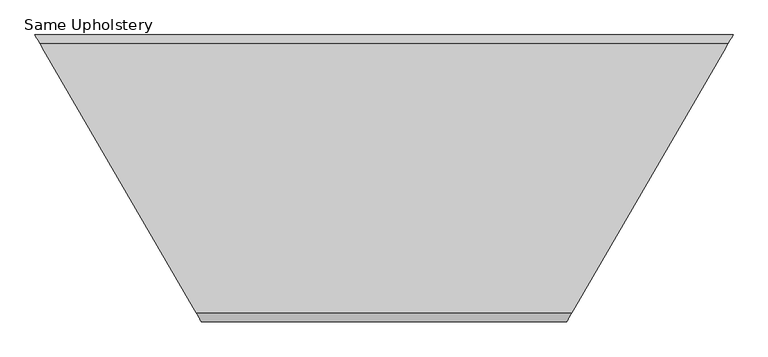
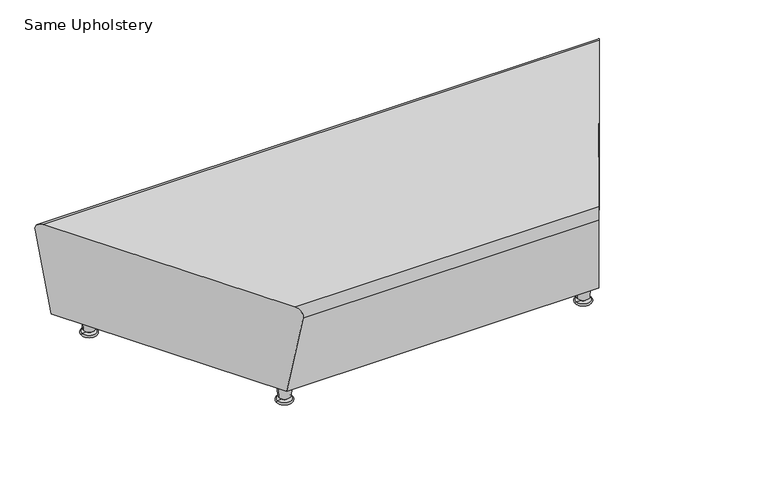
"""IFC4 building model written with IfcOpenShell, lengths in millimetres: furniture geometry, Steelcase - Media Scape - Lounge - Backless : Same Upholstery."""

from ifc_helpers import new_model, si_unit, point, frame, origin, place, context, project, spatial, polyline, circle_curve, ellipse_curve, trimmed, source, transform, mapped, element, save
from ifc_brep_helpers import plane_surface, cylinder_surface, revolved_surface, advanced_brep


def same_upholstery_e157f741(model_context):
    return source(origin(), model_context, "Body", "AdvancedBrep", [
        advanced_brep(
        [(-25.1032021, 40.4380475, 404.8558036), (-16.7839115, 26.1079457, 404.8558036), (1074.7116169, 26.1079457, 404.8558036), (1083.0309074, 40.4380475, 404.8558036), (1521.8658084, 796.3376974, 404.8558036), (1528.4184217, 807.6246715, 404.8558036), (-470.4907164, 807.6246715, 404.8558036), (-463.938103, 796.3376974, 404.8558036), (1513.6795651, 782.2367715, 74.638481), (1089.4504735, 51.4958456, 74.638481), (-31.5227682, 51.4958456, 74.638481), (-455.7518598, 782.2367715, 74.638481), (-485.3373553, 833.1982281, 374.5705234), (-1.9372726, 0.5343891, 374.5705234), (1059.8649779, 0.5343891, 374.5705234), (1543.2650607, 833.1982281, 374.5705234)],
        [
            (0, 1),
            (1, 2),
            (2, 3),
            (3, 4),
            (4, 5),
            (5, 6),
            (6, 7),
            (7, 0),
            (8, 9),
            (9, 10),
            (10, 11),
            (11, 8),
            (6, 12, ellipse_curve(frame((-470.4907164, 807.6246715, 378.9157267), z_axis=(-0.8648259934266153, -0.5020717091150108, 0.0), x_axis=(-0.5020717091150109, 0.8648259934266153, 0.0)), 29.994562, 25.9400769)),
            (12, 11),
            (10, 13),
            (13, 1, ellipse_curve(frame((-16.7839115, 26.1079457, 378.9157267), z_axis=(-0.8648259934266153, -0.5020717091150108, 0.0), x_axis=(-0.5020717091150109, 0.8648259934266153, 0.0)), 29.994562, 25.9400769)),
            (2, 14, ellipse_curve(frame((1074.7116169, 26.1079457, 378.9157267), z_axis=(0.8648259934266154, -0.5020717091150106, 0.0), x_axis=(-0.5020717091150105, -0.8648259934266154, 0.0)), 29.994562, 25.9400769)),
            (14, 9),
            (8, 15),
            (15, 5, ellipse_curve(frame((1528.4184217, 807.6246715, 378.9157267), z_axis=(0.8648259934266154, -0.5020717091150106, 0.0), x_axis=(-0.5020717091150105, -0.8648259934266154, 0.0)), 29.994562, 25.9400769)),
            (13, 14),
            (12, 15),
        ],
        [
            plane_surface(frame((-475.1687245, 833.9340475, 404.8558036), z_axis=(0.0, 0.0, 1.0), x_axis=(-1.0, 0.0, 0.0))),
            plane_surface(frame((-475.1687245, 833.9340475, 74.638481), z_axis=(0.0, 0.0, -1.0), x_axis=(1.0, 0.0, 0.0))),
            plane_surface(frame((-485.7645327, 833.9340475, 404.8558036), z_axis=(-0.8648259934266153, -0.5020717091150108, 0.0), x_axis=(0.0, 0.0, -1.0))),
            plane_surface(frame((1059.5547402, 0.0, 404.8558036), z_axis=(0.8648259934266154, -0.5020717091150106, 0.0), x_axis=(0.0, 0.0, -1.0))),
            cylinder_surface(frame((-516.2938309, 26.1079457, 378.9157267), z_axis=(-1.0, 0.0, 0.0), x_axis=(0.0, 1.0, 0.0)), 25.9400769),
            plane_surface(frame((1560.5939326, 51.4958456, 74.638481), z_axis=(0.0, -0.9858705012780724, -0.16750926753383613), x_axis=(-1.0, 0.0, 0.0))),
            plane_surface(frame((1560.5939326, 833.1982281, 374.5705234), z_axis=(0.0, 0.9858705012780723, -0.1675092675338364), x_axis=(-1.0, 0.0, 0.0))),
            cylinder_surface(frame((0.0, 807.6246715, 378.9157267), z_axis=(-1.0, 0.0, 0.0), x_axis=(0.0, 1.0, 0.0)), 25.9400769),
        ],
        [
            (0, [[1, 2, 3, 4, 5, 6, 7, 8]]),
            (1, [[9, 10, 11, 12]]),
            (2, [[-1, -8, -7, 13, 14, -11, 15, 16]]),
            (3, [[-3, 17, 18, -9, 19, 20, -5, -4]]),
            (4, [[21, -17, -2, -16]]),
            (5, [[-21, -15, -10, -18]]),
            (6, [[22, -19, -12, -14]]),
            (7, [[-22, -13, -6, -20]]),
        ],
    ),
        advanced_brep(
        [(1066.0808023, 106.7707016, 74.1561731), (1089.8677225, 106.7707016, 74.1561731), (1042.2938821, 106.7707016, 74.1561731), (1040.02716, 106.7707016, 0.0), (1092.1344446, 106.7707016, 0.0), (1066.0808023, 106.7707016, 0.0), (1040.02716, 106.7707016, 6.3788302), (1092.1344446, 106.7707016, 6.3788302), (1056.5558023, 106.7707016, 6.3788302), (1075.6058023, 106.7707016, 6.3788302), (1056.5558023, 106.7707016, 17.057519), (1075.6058023, 106.7707016, 17.057519), (1045.125686, 106.7707016, 17.057519), (1087.0359186, 106.7707016, 17.057519)],
        [
            (0, 1),
            (1, 2, circle_curve(frame((1066.0808023, 106.7707016, 74.1561731), z_axis=(0.0, 0.0, 1.0), x_axis=(1.0, 0.0, 0.0)), 23.7869202)),
            (2, 0),
            (2, 1, circle_curve(frame((1066.0808023, 106.7707016, 74.1561731), z_axis=(0.0, 0.0, 1.0), x_axis=(1.0, 0.0, 0.0)), 23.7869202)),
            (3, 4, circle_curve(frame((1066.0808023, 106.7707016, 0.0), z_axis=(0.0, 0.0, -1.0), x_axis=(1.0, 0.0, 0.0)), 26.0536423)),
            (4, 5),
            (5, 3),
            (4, 3, circle_curve(frame((1066.0808023, 106.7707016, 0.0), z_axis=(0.0, 0.0, -1.0), x_axis=(1.0, 0.0, 0.0)), 26.0536423)),
            (6, 7, circle_curve(frame((1066.0808023, 106.7707016, 6.3788302), z_axis=(0.0, 0.0, -1.0), x_axis=(1.0, 0.0, 0.0)), 26.0536423)),
            (7, 4, circle_curve(frame((1092.1344446, 106.7707016, 3.1894151), z_axis=(0.0, 1.0, 0.0), x_axis=(1.0, 0.0, 0.0)), 3.1894151)),
            (3, 6, circle_curve(frame((1040.02716, 106.7707016, 3.1894151), z_axis=(0.0, 1.0, 0.0), x_axis=(-1.0, 0.0, 0.0)), 3.1894151)),
            (7, 6, circle_curve(frame((1066.0808023, 106.7707016, 6.3788302), z_axis=(0.0, 0.0, -1.0), x_axis=(1.0, 0.0, 0.0)), 26.0536423)),
            (8, 9, circle_curve(frame((1066.0808023, 106.7707016, 6.3788302), z_axis=(0.0, 0.0, -1.0), x_axis=(1.0, 0.0, 0.0)), 9.525)),
            (9, 7),
            (6, 8),
            (9, 8, circle_curve(frame((1066.0808023, 106.7707016, 6.3788302), z_axis=(0.0, 0.0, -1.0), x_axis=(1.0, 0.0, 0.0)), 9.525)),
            (10, 11, circle_curve(frame((1066.0808023, 106.7707016, 17.057519), z_axis=(0.0, 0.0, -1.0), x_axis=(1.0, 0.0, 0.0)), 9.525)),
            (11, 9),
            (8, 10),
            (11, 10, circle_curve(frame((1066.0808023, 106.7707016, 17.057519), z_axis=(0.0, 0.0, -1.0), x_axis=(1.0, 0.0, 0.0)), 9.525)),
            (12, 13, circle_curve(frame((1066.0808023, 106.7707016, 17.057519), z_axis=(0.0, 0.0, -1.0), x_axis=(1.0, 0.0, 0.0)), 20.9551163)),
            (13, 11),
            (10, 12),
            (13, 12, circle_curve(frame((1066.0808023, 106.7707016, 17.057519), z_axis=(0.0, 0.0, -1.0), x_axis=(1.0, 0.0, 0.0)), 20.9551163)),
            (1, 13),
            (12, 2),
        ],
        [
            plane_surface(frame((1066.0808023, 106.7707016, 74.1561731), z_axis=(0.0, 0.0, 1.0), x_axis=(1.0, 0.0, 0.0))),
            plane_surface(frame((1066.0808023, 106.7707016, 0.0), z_axis=(0.0, 0.0, -1.0), x_axis=(1.0, 0.0, 0.0))),
            revolved_surface(trimmed(ellipse_curve(frame((1092.1344446, 106.7707016, 3.1894151), z_axis=(0.0, -1.0, 0.0), x_axis=(1.0, 0.0, 0.0)), 3.1894151, 3.1894151), [point((1092.1344446, 106.7707016, 0.0))], [point((1092.1344446, 106.7707016, 6.3788302))], True, "CARTESIAN"), (1066.0808023, 106.7707016, 61.4561731), (0.0, 0.0, 1.0)),
            plane_surface(frame((1066.0808023, 106.7707016, 6.3788302), z_axis=(0.0, 0.0, 1.0), x_axis=(1.0, 0.0, 0.0))),
            cylinder_surface(frame((1066.0808023, 106.7707016, 61.4561731), z_axis=(0.0, 0.0, 1.0), x_axis=(1.0, 0.0, 0.0)), 9.525),
            plane_surface(frame((1066.0808023, 106.7707016, 17.057519), z_axis=(0.0, 0.0, -1.0), x_axis=(1.0, 0.0, 0.0))),
            revolved_surface(polyline([(1087.0359186, 106.7707016, 17.057519), (1089.8677225, 106.7707016, 74.1561731)]), (1066.0808023, 106.7707016, 61.4561731), (0.0, 0.0, 1.0)),
        ],
        [
            (0, [[1, 2, 3]]),
            (0, [[-3, 4, -1]]),
            (1, [[5, 6, 7]]),
            (1, [[8, -7, -6]]),
            (2, [[9, 10, -5, 11]]),
            (2, [[12, -11, -8, -10]]),
            (3, [[13, 14, -9, 15]]),
            (3, [[16, -15, -12, -14]]),
            (4, [[17, 18, -13, 19]]),
            (4, [[20, -19, -16, -18]]),
            (5, [[21, 22, -17, 23]]),
            (5, [[24, -23, -20, -22]]),
            (6, [[-2, 25, -21, 26]]),
            (6, [[-4, -26, -24, -25]]),
        ],
    ),
        advanced_brep(
        [(1410.1417273, 726.9619156, 74.1561731), (1433.9286474, 726.9619156, 74.1561731), (1386.3548071, 726.9619156, 74.1561731), (1384.088085, 726.9619156, 0.0), (1436.1953695, 726.9619156, 0.0), (1410.1417273, 726.9619156, 0.0), (1384.088085, 726.9619156, 6.3788302), (1436.1953695, 726.9619156, 6.3788302), (1400.6167273, 726.9619156, 6.3788302), (1419.6667273, 726.9619156, 6.3788302), (1400.6167273, 726.9619156, 17.057519), (1419.6667273, 726.9619156, 17.057519), (1389.186611, 726.9619156, 17.057519), (1431.0968435, 726.9619156, 17.057519)],
        [
            (0, 1),
            (1, 2, circle_curve(frame((1410.1417273, 726.9619156, 74.1561731), z_axis=(0.0, 0.0, 1.0), x_axis=(1.0, 0.0, 0.0)), 23.7869202)),
            (2, 0),
            (2, 1, circle_curve(frame((1410.1417273, 726.9619156, 74.1561731), z_axis=(0.0, 0.0, 1.0), x_axis=(1.0, 0.0, 0.0)), 23.7869202)),
            (3, 4, circle_curve(frame((1410.1417273, 726.9619156, 0.0), z_axis=(0.0, 0.0, -1.0), x_axis=(1.0, 0.0, 0.0)), 26.0536423)),
            (4, 5),
            (5, 3),
            (4, 3, circle_curve(frame((1410.1417273, 726.9619156, 0.0), z_axis=(0.0, 0.0, -1.0), x_axis=(1.0, 0.0, 0.0)), 26.0536423)),
            (6, 7, circle_curve(frame((1410.1417273, 726.9619156, 6.3788302), z_axis=(0.0, 0.0, -1.0), x_axis=(1.0, 0.0, 0.0)), 26.0536423)),
            (7, 4, circle_curve(frame((1436.1953695, 726.9619156, 3.1894151), z_axis=(0.0, 1.0, 0.0), x_axis=(1.0, 0.0, 0.0)), 3.1894151)),
            (3, 6, circle_curve(frame((1384.088085, 726.9619156, 3.1894151), z_axis=(0.0, 1.0, 0.0), x_axis=(-1.0, 0.0, 0.0)), 3.1894151)),
            (7, 6, circle_curve(frame((1410.1417273, 726.9619156, 6.3788302), z_axis=(0.0, 0.0, -1.0), x_axis=(1.0, 0.0, 0.0)), 26.0536423)),
            (8, 9, circle_curve(frame((1410.1417273, 726.9619156, 6.3788302), z_axis=(0.0, 0.0, -1.0), x_axis=(1.0, 0.0, 0.0)), 9.525)),
            (9, 7),
            (6, 8),
            (9, 8, circle_curve(frame((1410.1417273, 726.9619156, 6.3788302), z_axis=(0.0, 0.0, -1.0), x_axis=(1.0, 0.0, 0.0)), 9.525)),
            (10, 11, circle_curve(frame((1410.1417273, 726.9619156, 17.057519), z_axis=(0.0, 0.0, -1.0), x_axis=(1.0, 0.0, 0.0)), 9.525)),
            (11, 9),
            (8, 10),
            (11, 10, circle_curve(frame((1410.1417273, 726.9619156, 17.057519), z_axis=(0.0, 0.0, -1.0), x_axis=(1.0, 0.0, 0.0)), 9.525)),
            (12, 13, circle_curve(frame((1410.1417273, 726.9619156, 17.057519), z_axis=(0.0, 0.0, -1.0), x_axis=(1.0, 0.0, 0.0)), 20.9551163)),
            (13, 11),
            (10, 12),
            (13, 12, circle_curve(frame((1410.1417273, 726.9619156, 17.057519), z_axis=(0.0, 0.0, -1.0), x_axis=(1.0, 0.0, 0.0)), 20.9551163)),
            (1, 13),
            (12, 2),
        ],
        [
            plane_surface(frame((1410.1417273, 726.9619156, 74.1561731), z_axis=(0.0, 0.0, 1.0), x_axis=(1.0, 0.0, 0.0))),
            plane_surface(frame((1410.1417273, 726.9619156, 0.0), z_axis=(0.0, 0.0, -1.0), x_axis=(1.0, 0.0, 0.0))),
            revolved_surface(trimmed(ellipse_curve(frame((1436.1953695, 726.9619156, 3.1894151), z_axis=(0.0, -1.0, 0.0), x_axis=(1.0, 0.0, 0.0)), 3.1894151, 3.1894151), [point((1436.1953695, 726.9619156, 0.0))], [point((1436.1953695, 726.9619156, 6.3788302))], True, "CARTESIAN"), (1410.1417273, 726.9619156, 61.4561731), (0.0, 0.0, 1.0)),
            plane_surface(frame((1410.1417273, 726.9619156, 6.3788302), z_axis=(0.0, 0.0, 1.0), x_axis=(1.0, 0.0, 0.0))),
            cylinder_surface(frame((1410.1417273, 726.9619156, 61.4561731), z_axis=(0.0, 0.0, 1.0), x_axis=(1.0, 0.0, 0.0)), 9.525),
            plane_surface(frame((1410.1417273, 726.9619156, 17.057519), z_axis=(0.0, 0.0, -1.0), x_axis=(1.0, 0.0, 0.0))),
            revolved_surface(polyline([(1431.0968435, 726.9619156, 17.057519), (1433.9286474, 726.9619156, 74.1561731)]), (1410.1417273, 726.9619156, 61.4561731), (0.0, 0.0, 1.0)),
        ],
        [
            (0, [[1, 2, 3]]),
            (0, [[-3, 4, -1]]),
            (1, [[5, 6, 7]]),
            (1, [[8, -7, -6]]),
            (2, [[9, 10, -5, 11]]),
            (2, [[12, -11, -8, -10]]),
            (3, [[13, 14, -9, 15]]),
            (3, [[16, -15, -12, -14]]),
            (4, [[17, 18, -13, 19]]),
            (4, [[20, -19, -16, -18]]),
            (5, [[21, 22, -17, 23]]),
            (5, [[24, -23, -20, -22]]),
            (6, [[-2, 25, -21, 26]]),
            (6, [[-4, -26, -24, -25]]),
        ],
    ),
        advanced_brep(
        [(-352.2140219, 726.9619156, 74.1561731), (-328.4271018, 726.9619156, 74.1561731), (-376.0009421, 726.9619156, 74.1561731), (-378.2676642, 726.9619156, 0.0), (-326.1603796, 726.9619156, 0.0), (-352.2140219, 726.9619156, 0.0), (-378.2676642, 726.9619156, 6.3788302), (-326.1603796, 726.9619156, 6.3788302), (-361.7390219, 726.9619156, 6.3788302), (-342.6890219, 726.9619156, 6.3788302), (-361.7390219, 726.9619156, 17.057519), (-342.6890219, 726.9619156, 17.057519), (-373.1691382, 726.9619156, 17.057519), (-331.2589057, 726.9619156, 17.057519)],
        [
            (0, 1),
            (1, 2, circle_curve(frame((-352.2140219, 726.9619156, 74.1561731), z_axis=(0.0, 0.0, 1.0), x_axis=(1.0, 0.0, 0.0)), 23.7869202)),
            (2, 0),
            (2, 1, circle_curve(frame((-352.2140219, 726.9619156, 74.1561731), z_axis=(0.0, 0.0, 1.0), x_axis=(1.0, 0.0, 0.0)), 23.7869202)),
            (3, 4, circle_curve(frame((-352.2140219, 726.9619156, 0.0), z_axis=(0.0, 0.0, -1.0), x_axis=(1.0, 0.0, 0.0)), 26.0536423)),
            (4, 5),
            (5, 3),
            (4, 3, circle_curve(frame((-352.2140219, 726.9619156, 0.0), z_axis=(0.0, 0.0, -1.0), x_axis=(1.0, 0.0, 0.0)), 26.0536423)),
            (6, 7, circle_curve(frame((-352.2140219, 726.9619156, 6.3788302), z_axis=(0.0, 0.0, -1.0), x_axis=(1.0, 0.0, 0.0)), 26.0536423)),
            (7, 4, circle_curve(frame((-326.1603796, 726.9619156, 3.1894151), z_axis=(0.0, 1.0, 0.0), x_axis=(1.0, 0.0, 0.0)), 3.1894151)),
            (3, 6, circle_curve(frame((-378.2676642, 726.9619156, 3.1894151), z_axis=(0.0, 1.0, 0.0), x_axis=(-1.0, 0.0, 0.0)), 3.1894151)),
            (7, 6, circle_curve(frame((-352.2140219, 726.9619156, 6.3788302), z_axis=(0.0, 0.0, -1.0), x_axis=(1.0, 0.0, 0.0)), 26.0536423)),
            (8, 9, circle_curve(frame((-352.2140219, 726.9619156, 6.3788302), z_axis=(0.0, 0.0, -1.0), x_axis=(1.0, 0.0, 0.0)), 9.525)),
            (9, 7),
            (6, 8),
            (9, 8, circle_curve(frame((-352.2140219, 726.9619156, 6.3788302), z_axis=(0.0, 0.0, -1.0), x_axis=(1.0, 0.0, 0.0)), 9.525)),
            (10, 11, circle_curve(frame((-352.2140219, 726.9619156, 17.057519), z_axis=(0.0, 0.0, -1.0), x_axis=(1.0, 0.0, 0.0)), 9.525)),
            (11, 9),
            (8, 10),
            (11, 10, circle_curve(frame((-352.2140219, 726.9619156, 17.057519), z_axis=(0.0, 0.0, -1.0), x_axis=(1.0, 0.0, 0.0)), 9.525)),
            (12, 13, circle_curve(frame((-352.2140219, 726.9619156, 17.057519), z_axis=(0.0, 0.0, -1.0), x_axis=(1.0, 0.0, 0.0)), 20.9551163)),
            (13, 11),
            (10, 12),
            (13, 12, circle_curve(frame((-352.2140219, 726.9619156, 17.057519), z_axis=(0.0, 0.0, -1.0), x_axis=(1.0, 0.0, 0.0)), 20.9551163)),
            (1, 13),
            (12, 2),
        ],
        [
            plane_surface(frame((-352.2140219, 726.9619156, 74.1561731), z_axis=(0.0, 0.0, 1.0), x_axis=(1.0, 0.0, 0.0))),
            plane_surface(frame((-352.2140219, 726.9619156, 0.0), z_axis=(0.0, 0.0, -1.0), x_axis=(1.0, 0.0, 0.0))),
            revolved_surface(trimmed(ellipse_curve(frame((-326.1603796, 726.9619156, 3.1894151), z_axis=(0.0, -1.0, 0.0), x_axis=(1.0, 0.0, 0.0)), 3.1894151, 3.1894151), [point((-326.1603796, 726.9619156, 0.0))], [point((-326.1603796, 726.9619156, 6.3788302))], True, "CARTESIAN"), (-352.2140219, 726.9619156, 61.4561731), (0.0, 0.0, 1.0)),
            plane_surface(frame((-352.2140219, 726.9619156, 6.3788302), z_axis=(0.0, 0.0, 1.0), x_axis=(1.0, 0.0, 0.0))),
            cylinder_surface(frame((-352.2140219, 726.9619156, 61.4561731), z_axis=(0.0, 0.0, 1.0), x_axis=(1.0, 0.0, 0.0)), 9.525),
            plane_surface(frame((-352.2140219, 726.9619156, 17.057519), z_axis=(0.0, 0.0, -1.0), x_axis=(1.0, 0.0, 0.0))),
            revolved_surface(polyline([(-331.2589057, 726.9619156, 17.057519), (-328.4271018, 726.9619156, 74.1561731)]), (-352.2140219, 726.9619156, 61.4561731), (0.0, 0.0, 1.0)),
        ],
        [
            (0, [[1, 2, 3]]),
            (0, [[-3, 4, -1]]),
            (1, [[5, 6, 7]]),
            (1, [[8, -7, -6]]),
            (2, [[9, 10, -5, 11]]),
            (2, [[12, -11, -8, -10]]),
            (3, [[13, 14, -9, 15]]),
            (3, [[16, -15, -12, -14]]),
            (4, [[17, 18, -13, 19]]),
            (4, [[20, -19, -16, -18]]),
            (5, [[21, 22, -17, 23]]),
            (5, [[24, -23, -20, -22]]),
            (6, [[-2, 25, -21, 26]]),
            (6, [[-4, -26, -24, -25]]),
        ],
    ),
        advanced_brep(
        [(-8.153097, 106.7707016, 74.1561731), (15.6338232, 106.7707016, 74.1561731), (-31.9400171, 106.7707016, 74.1561731), (-34.2067392, 106.7707016, 0.0), (17.9005453, 106.7707016, 0.0), (-8.153097, 106.7707016, 0.0), (-34.2067392, 106.7707016, 6.3788302), (17.9005453, 106.7707016, 6.3788302), (-17.678097, 106.7707016, 6.3788302), (1.371903, 106.7707016, 6.3788302), (-17.678097, 106.7707016, 17.057519), (1.371903, 106.7707016, 17.057519), (-29.1082132, 106.7707016, 17.057519), (12.8020193, 106.7707016, 17.057519)],
        [
            (0, 1),
            (1, 2, circle_curve(frame((-8.153097, 106.7707016, 74.1561731), z_axis=(0.0, 0.0, 1.0), x_axis=(1.0, 0.0, 0.0)), 23.7869202)),
            (2, 0),
            (2, 1, circle_curve(frame((-8.153097, 106.7707016, 74.1561731), z_axis=(0.0, 0.0, 1.0), x_axis=(1.0, 0.0, 0.0)), 23.7869202)),
            (3, 4, circle_curve(frame((-8.153097, 106.7707016, 0.0), z_axis=(0.0, 0.0, -1.0), x_axis=(1.0, 0.0, 0.0)), 26.0536423)),
            (4, 5),
            (5, 3),
            (4, 3, circle_curve(frame((-8.153097, 106.7707016, 0.0), z_axis=(0.0, 0.0, -1.0), x_axis=(1.0, 0.0, 0.0)), 26.0536423)),
            (6, 7, circle_curve(frame((-8.153097, 106.7707016, 6.3788302), z_axis=(0.0, 0.0, -1.0), x_axis=(1.0, 0.0, 0.0)), 26.0536423)),
            (7, 4, circle_curve(frame((17.9005453, 106.7707016, 3.1894151), z_axis=(0.0, 1.0, 0.0), x_axis=(1.0, 0.0, 0.0)), 3.1894151)),
            (3, 6, circle_curve(frame((-34.2067392, 106.7707016, 3.1894151), z_axis=(0.0, 1.0, 0.0), x_axis=(-1.0, 0.0, 0.0)), 3.1894151)),
            (7, 6, circle_curve(frame((-8.153097, 106.7707016, 6.3788302), z_axis=(0.0, 0.0, -1.0), x_axis=(1.0, 0.0, 0.0)), 26.0536423)),
            (8, 9, circle_curve(frame((-8.153097, 106.7707016, 6.3788302), z_axis=(0.0, 0.0, -1.0), x_axis=(1.0, 0.0, 0.0)), 9.525)),
            (9, 7),
            (6, 8),
            (9, 8, circle_curve(frame((-8.153097, 106.7707016, 6.3788302), z_axis=(0.0, 0.0, -1.0), x_axis=(1.0, 0.0, 0.0)), 9.525)),
            (10, 11, circle_curve(frame((-8.153097, 106.7707016, 17.057519), z_axis=(0.0, 0.0, -1.0), x_axis=(1.0, 0.0, 0.0)), 9.525)),
            (11, 9),
            (8, 10),
            (11, 10, circle_curve(frame((-8.153097, 106.7707016, 17.057519), z_axis=(0.0, 0.0, -1.0), x_axis=(1.0, 0.0, 0.0)), 9.525)),
            (12, 13, circle_curve(frame((-8.153097, 106.7707016, 17.057519), z_axis=(0.0, 0.0, -1.0), x_axis=(1.0, 0.0, 0.0)), 20.9551163)),
            (13, 11),
            (10, 12),
            (13, 12, circle_curve(frame((-8.153097, 106.7707016, 17.057519), z_axis=(0.0, 0.0, -1.0), x_axis=(1.0, 0.0, 0.0)), 20.9551163)),
            (1, 13),
            (12, 2),
        ],
        [
            plane_surface(frame((-8.153097, 106.7707016, 74.1561731), z_axis=(0.0, 0.0, 1.0), x_axis=(1.0, 0.0, 0.0))),
            plane_surface(frame((-8.153097, 106.7707016, 0.0), z_axis=(0.0, 0.0, -1.0), x_axis=(1.0, 0.0, 0.0))),
            revolved_surface(trimmed(ellipse_curve(frame((17.9005453, 106.7707016, 3.1894151), z_axis=(0.0, -1.0, 0.0), x_axis=(1.0, 0.0, 0.0)), 3.1894151, 3.1894151), [point((17.9005453, 106.7707016, 0.0))], [point((17.9005453, 106.7707016, 6.3788302))], True, "CARTESIAN"), (-8.153097, 106.7707016, 61.4561731), (0.0, 0.0, 1.0)),
            plane_surface(frame((-8.153097, 106.7707016, 6.3788302), z_axis=(0.0, 0.0, 1.0), x_axis=(1.0, 0.0, 0.0))),
            cylinder_surface(frame((-8.153097, 106.7707016, 61.4561731), z_axis=(0.0, 0.0, 1.0), x_axis=(1.0, 0.0, 0.0)), 9.525),
            plane_surface(frame((-8.153097, 106.7707016, 17.057519), z_axis=(0.0, 0.0, -1.0), x_axis=(1.0, 0.0, 0.0))),
            revolved_surface(polyline([(12.8020193, 106.7707016, 17.057519), (15.6338232, 106.7707016, 74.1561731)]), (-8.153097, 106.7707016, 61.4561731), (0.0, 0.0, 1.0)),
        ],
        [
            (0, [[1, 2, 3]]),
            (0, [[-3, 4, -1]]),
            (1, [[5, 6, 7]]),
            (1, [[8, -7, -6]]),
            (2, [[9, 10, -5, 11]]),
            (2, [[12, -11, -8, -10]]),
            (3, [[13, 14, -9, 15]]),
            (3, [[16, -15, -12, -14]]),
            (4, [[17, 18, -13, 19]]),
            (4, [[20, -19, -16, -18]]),
            (5, [[21, 22, -17, 23]]),
            (5, [[24, -23, -20, -22]]),
            (6, [[-2, 25, -21, 26]]),
            (6, [[-4, -26, -24, -25]]),
        ],
    ),
    ])


if __name__ == "__main__":
    model = new_model("IFC4")
    model_context = context("Model", 3, world=origin())
    ifc_project = project(units=[si_unit("LENGTHUNIT", "METRE", prefix="MILLI")], contexts=[model_context])
    site = spatial("IfcSite", under=ifc_project)
    building = spatial("IfcBuilding", under=site)
    placement = place(None, origin())
    same_upholstery_shape = same_upholstery_e157f741(model_context)
    element("IfcFurniture", 1, ObjectType="Steelcase - Media Scape - Lounge - Backless : Same Upholstery", at=placement, inside=building, context=model_context, shape_type="MappedRepresentation", body=[
        mapped(same_upholstery_shape, transform((0.0, 0.0, 0.0), x_axis=(1.0, 0.0, 0.0), y_axis=(0.0, 1.0, 0.0), z_axis=(0.0, 0.0, 1.0))),
    ])
    save(model, "model.ifc")
